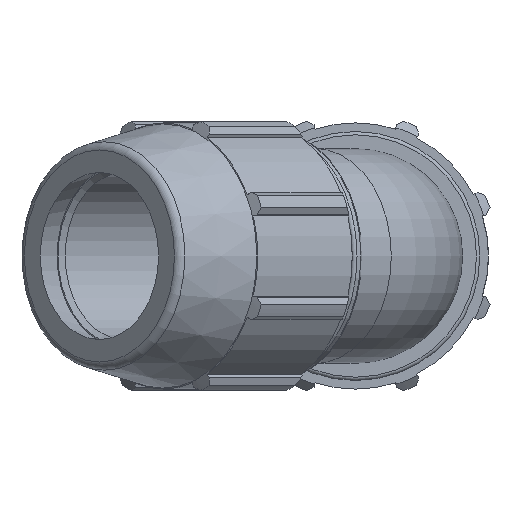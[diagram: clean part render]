
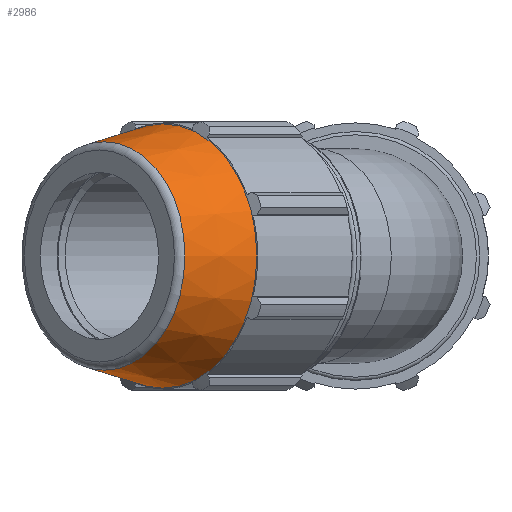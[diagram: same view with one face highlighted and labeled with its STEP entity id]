
A CAD part, left-side view. The second image highlights one B-rep face of the part: STEP entity #2986.
In plain terms, the highlighted conical face has half-angle 12 degrees and reference radius 64.975 mm.
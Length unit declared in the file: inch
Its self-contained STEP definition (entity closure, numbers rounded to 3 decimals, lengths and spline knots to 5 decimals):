
#342=LINE('',#5121,#550);
#550=VECTOR('',#4115,2.55805);
#640=CONICAL_SURFACE('',#3307,2.55805,0.209);
#782=FACE_OUTER_BOUND('',#936,.T.);
#936=EDGE_LOOP('',(#2628,#2629,#2630,#2631,#2632,#2633,#2634));
#1058=CIRCLE('',#3236,2.75892);
#1059=CIRCLE('',#3237,2.75892);
#1095=CIRCLE('',#3303,2.38658);
#1096=CIRCLE('',#3304,2.38658);
#1097=CIRCLE('',#3305,2.38658);
#1340=VERTEX_POINT('',#4945);
#1341=VERTEX_POINT('',#4946);
#1391=VERTEX_POINT('',#5112);
#1392=VERTEX_POINT('',#5114);
#1393=VERTEX_POINT('',#5116);
#1730=EDGE_CURVE('',#1340,#1341,#1058,.T.);
#1731=EDGE_CURVE('',#1341,#1340,#1059,.T.);
#1817=EDGE_CURVE('',#1391,#1392,#1095,.T.);
#1818=EDGE_CURVE('',#1392,#1393,#1096,.T.);
#1819=EDGE_CURVE('',#1393,#1391,#1097,.T.);
#1821=EDGE_CURVE('',#1392,#1341,#342,.T.);
#2628=ORIENTED_EDGE('',*,*,#1819,.F.);
#2629=ORIENTED_EDGE('',*,*,#1818,.F.);
#2630=ORIENTED_EDGE('',*,*,#1821,.T.);
#2631=ORIENTED_EDGE('',*,*,#1731,.T.);
#2632=ORIENTED_EDGE('',*,*,#1730,.T.);
#2633=ORIENTED_EDGE('',*,*,#1821,.F.);
#2634=ORIENTED_EDGE('',*,*,#1817,.F.);
#2986=ADVANCED_FACE('',(#782),#640,.T.);
#3236=AXIS2_PLACEMENT_3D('',#4947,#3921,#3922);
#3237=AXIS2_PLACEMENT_3D('',#4948,#3923,#3924);
#3303=AXIS2_PLACEMENT_3D('',#5115,#4105,#4106);
#3304=AXIS2_PLACEMENT_3D('',#5117,#4107,#4108);
#3305=AXIS2_PLACEMENT_3D('',#5118,#4109,#4110);
#3307=AXIS2_PLACEMENT_3D('',#5120,#4113,#4114);
#3921=DIRECTION('center_axis',(-0.707,0.707,0.));
#3922=DIRECTION('ref_axis',(0.,0.,-1.));
#3923=DIRECTION('center_axis',(-0.707,0.707,0.));
#3924=DIRECTION('ref_axis',(0.,0.,-1.));
#4105=DIRECTION('center_axis',(-0.707,0.707,0.));
#4106=DIRECTION('ref_axis',(0.707,0.707,0.));
#4107=DIRECTION('center_axis',(-0.707,0.707,0.));
#4108=DIRECTION('ref_axis',(0.707,0.707,0.));
#4109=DIRECTION('center_axis',(-0.707,0.707,0.));
#4110=DIRECTION('ref_axis',(0.707,0.707,0.));
#4113=DIRECTION('center_axis',(0.707,-0.707,0.));
#4114=DIRECTION('ref_axis',(-0.707,-0.707,0.));
#4115=DIRECTION('',(0.839,-0.545,0.));
#4945=CARTESIAN_POINT('',(-5.96014,2.05845,0.));
#4946=CARTESIAN_POINT('',(-2.05845,5.96014,0.));
#4947=CARTESIAN_POINT('Origin',(-4.0093,4.0093,0.));
#4948=CARTESIAN_POINT('Origin',(-4.0093,4.0093,0.));
#5112=CARTESIAN_POINT('',(-5.24793,5.24793,2.38658));
#5114=CARTESIAN_POINT('',(-3.56036,6.9355,0.));
#5115=CARTESIAN_POINT('Origin',(-5.24793,5.24793,0.));
#5116=CARTESIAN_POINT('',(-6.9355,3.56036,0.));
#5117=CARTESIAN_POINT('Origin',(-5.24793,5.24793,0.));
#5118=CARTESIAN_POINT('Origin',(-5.24793,5.24793,0.));
#5120=CARTESIAN_POINT('Origin',(-4.67751,4.67751,0.));
#5121=CARTESIAN_POINT('',(-2.8687,6.48633,0.));
